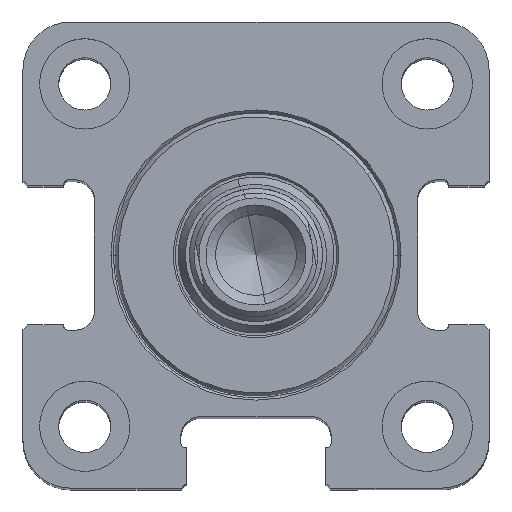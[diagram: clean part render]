
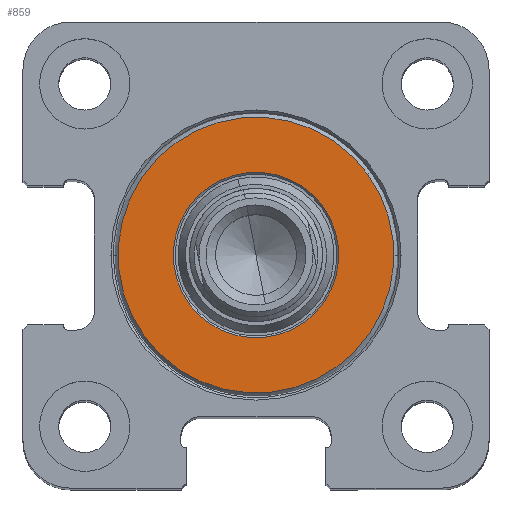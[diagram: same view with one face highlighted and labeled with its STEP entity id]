
A CAD part, top view. The second image highlights one B-rep face of the part: STEP entity #859.
In plain terms, the highlighted planar face has unit normal (0, 0, 1) as drawn and (-1, 0, 0) by its records, which use the part's own axes.
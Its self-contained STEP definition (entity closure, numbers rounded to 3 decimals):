
#33 = DIRECTION ( 'NONE',  ( 0., 0., -1. ) ) ;
#681 = DIRECTION ( 'NONE',  ( 0., 0., -1. ) ) ;
#741 = DIRECTION ( 'NONE',  ( 1., 0., 0. ) ) ;
#767 = VERTEX_POINT ( 'NONE', #13598 ) ;
#859 = ADVANCED_FACE ( 'NONE', ( #12319, #9503 ), #5806, .F. ) ;
#1333 = CARTESIAN_POINT ( 'NONE',  ( 0., 0., 14.5 ) ) ;
#1399 = AXIS2_PLACEMENT_3D ( 'NONE', #1679, #6714, #9117 ) ;
#1487 = DIRECTION ( 'NONE',  ( 1., 0., 0. ) ) ;
#1677 = CIRCLE ( 'NONE', #1399, 14.5 ) ;
#1679 = CARTESIAN_POINT ( 'NONE',  ( 0., 0., 0. ) ) ;
#1957 = AXIS2_PLACEMENT_3D ( 'NONE', #2035, #741, #11183 ) ;
#2035 = CARTESIAN_POINT ( 'NONE',  ( 0., 0., 0. ) ) ;
#2223 = EDGE_CURVE ( 'NONE', #767, #14225, #6394, .T. ) ;
#2754 = EDGE_CURVE ( 'NONE', #11722, #4829, #1677, .T. ) ;
#3867 = CARTESIAN_POINT ( 'NONE',  ( 0., 0., 0. ) ) ;
#3883 = EDGE_LOOP ( 'NONE', ( #10354, #4919 ) ) ;
#4181 = CARTESIAN_POINT ( 'NONE',  ( 0., 0., -14.5 ) ) ;
#4349 = DIRECTION ( 'NONE',  ( 1., 0., 0. ) ) ;
#4829 = VERTEX_POINT ( 'NONE', #1333 ) ;
#4919 = ORIENTED_EDGE ( 'NONE', *, *, #2223, .T. ) ;
#4924 = ORIENTED_EDGE ( 'NONE', *, *, #2754, .T. ) ;
#5320 = AXIS2_PLACEMENT_3D ( 'NONE', #3867, #1487, #33 ) ;
#5806 = PLANE ( 'NONE',  #5838 ) ;
#5838 = AXIS2_PLACEMENT_3D ( 'NONE', #10875, #4349, #16166 ) ;
#6394 = CIRCLE ( 'NONE', #5320, 8.7 ) ;
#6714 = DIRECTION ( 'NONE',  ( -1., 0., 0. ) ) ;
#8008 = AXIS2_PLACEMENT_3D ( 'NONE', #14816, #14900, #681 ) ;
#9018 = EDGE_CURVE ( 'NONE', #14225, #767, #16710, .T. ) ;
#9094 = CARTESIAN_POINT ( 'NONE',  ( 0., 0., 8.7 ) ) ;
#9117 = DIRECTION ( 'NONE',  ( 0., 0., -1. ) ) ;
#9503 = FACE_OUTER_BOUND ( 'NONE', #13305, .T. ) ;
#10354 = ORIENTED_EDGE ( 'NONE', *, *, #9018, .T. ) ;
#10703 = EDGE_CURVE ( 'NONE', #4829, #11722, #16478, .T. ) ;
#10875 = CARTESIAN_POINT ( 'NONE',  ( 0., 7., 0. ) ) ;
#11183 = DIRECTION ( 'NONE',  ( 0., 0., -1. ) ) ;
#11722 = VERTEX_POINT ( 'NONE', #4181 ) ;
#12319 = FACE_BOUND ( 'NONE', #3883, .T. ) ;
#13305 = EDGE_LOOP ( 'NONE', ( #4924, #13325 ) ) ;
#13325 = ORIENTED_EDGE ( 'NONE', *, *, #10703, .T. ) ;
#13598 = CARTESIAN_POINT ( 'NONE',  ( 0., 0., -8.7 ) ) ;
#14225 = VERTEX_POINT ( 'NONE', #9094 ) ;
#14816 = CARTESIAN_POINT ( 'NONE',  ( 0., 0., 0. ) ) ;
#14900 = DIRECTION ( 'NONE',  ( -1., 0., 0. ) ) ;
#16166 = DIRECTION ( 'NONE',  ( 0., 0., -1. ) ) ;
#16478 = CIRCLE ( 'NONE', #8008, 14.5 ) ;
#16710 = CIRCLE ( 'NONE', #1957, 8.7 ) ;
